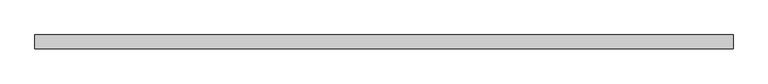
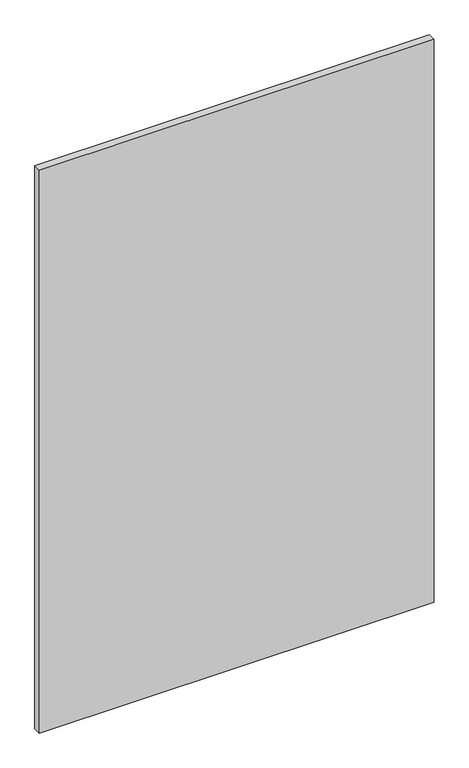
"""IFC4 building model written with IfcOpenShell, lengths in millimetres: plate geometry, Vitré."""

from ifc_helpers import new_model, si_unit, origin, origin_with_axes, place, context, project, spatial, polyline, outline, extrude, source, transform, mapped, element, save


def plate_4d4de3a5(model_context):
    return source(origin(), model_context, "Body", "SweptSolid", [
        extrude(outline(polyline([(-1010.9186989, -20.0), (-1010.9186989, 20.0), (1010.9186989, 20.0), (1010.9186989, -20.0), (-1010.9186989, -20.0)])), origin_with_axes(), (0.0, 0.0, 1.0), 3047.625),
    ])


if __name__ == "__main__":
    model = new_model("IFC4")
    model_context = context("Model", 3, world=origin())
    ifc_project = project(units=[si_unit("LENGTHUNIT", "METRE", prefix="MILLI")], contexts=[model_context])
    site = spatial("IfcSite", under=ifc_project)
    building = spatial("IfcBuilding", under=site)
    placement = place(None, origin())
    plate_shape = plate_4d4de3a5(model_context)
    element("IfcPlate", 1, ObjectType="Vitré", at=placement, inside=building, context=model_context, shape_type="MappedRepresentation", body=[
        mapped(plate_shape, transform((0.0, 0.0, 0.0), x_axis=(1.0, 0.0, 0.0), y_axis=(0.0, 1.0, 0.0), z_axis=(0.0, 0.0, 1.0))),
    ])
    save(model, "model.ifc")
